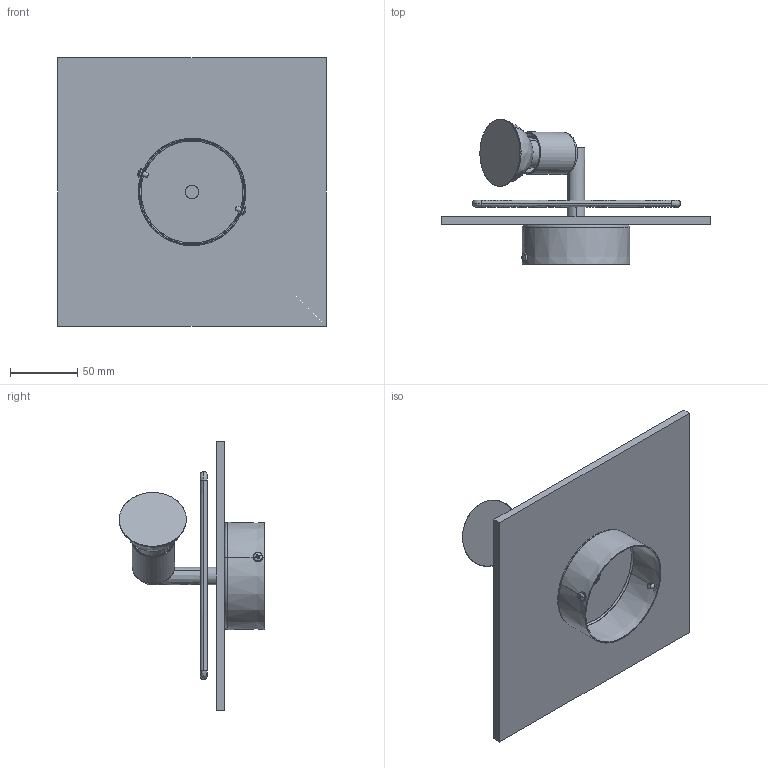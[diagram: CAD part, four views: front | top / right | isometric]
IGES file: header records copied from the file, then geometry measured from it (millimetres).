
Start section: SolidWorks IGES file using analytic representation for surfaces
Global section: file name: E:\3D lampy\Coba\Coba_9725.IGS; native system: SolidWorks 2016; preprocessor: SolidWorks 2016; author: Asia; date: 170622.150134; units: millimetre
Bounding box: 200 x 108.42 x 200 mm (x, y, z)
Surface area: 143947.8 mm2 (no closed solid volume)
Topology: 0 solids, 0 shells, 236 faces, 4019 edges, 4004 vertices
Faces by surface type: bspline 122, revolution 114
